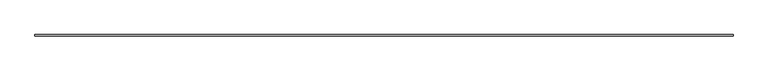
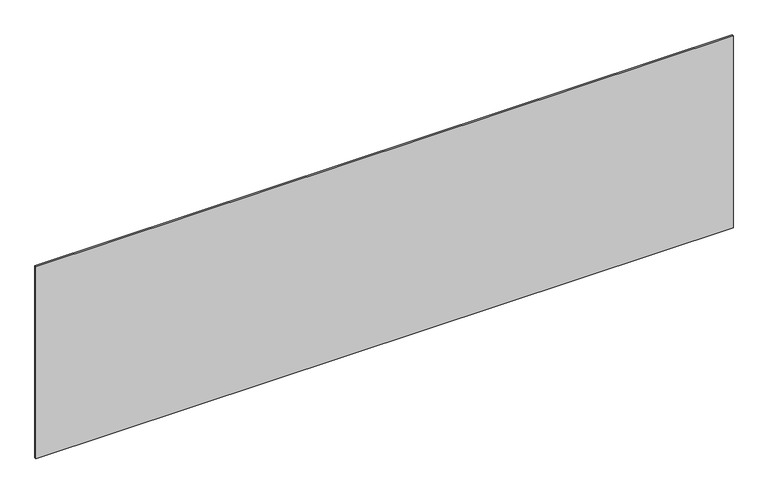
"""IFC4 building model written with IfcOpenShell, lengths in millimetres: plate geometry, システム パネル : 標準."""

from ifc_helpers import new_model, si_unit, origin, origin_with_axes, place, context, project, spatial, polyline, outline, extrude, source, transform, mapped, element, save


def plate_9005888e(model_context):
    return source(origin(), model_context, "Body", "SweptSolid", [
        extrude(outline(polyline([(2264.1666667, -5.0), (-2264.1666667, -5.0), (-2264.1666667, 5.0), (2264.1666667, 5.0), (2264.1666667, -5.0)])), origin_with_axes(), (0.0, 0.0, 1.0), 1318.3749289),
    ])


if __name__ == "__main__":
    model = new_model("IFC4")
    model_context = context("Model", 3, world=origin())
    ifc_project = project(units=[si_unit("LENGTHUNIT", "METRE", prefix="MILLI")], contexts=[model_context])
    site = spatial("IfcSite", under=ifc_project)
    building = spatial("IfcBuilding", under=site)
    placement = place(None, origin())
    plate_shape = plate_9005888e(model_context)
    element("IfcPlate", 1, ObjectType="システム パネル : 標準", at=placement, inside=building, context=model_context, shape_type="MappedRepresentation", body=[
        mapped(plate_shape, transform((0.0, 0.0, 0.0), x_axis=(1.0, 0.0, 0.0), y_axis=(0.0, 1.0, 0.0), z_axis=(0.0, 0.0, 1.0))),
    ])
    save(model, "model.ifc")
